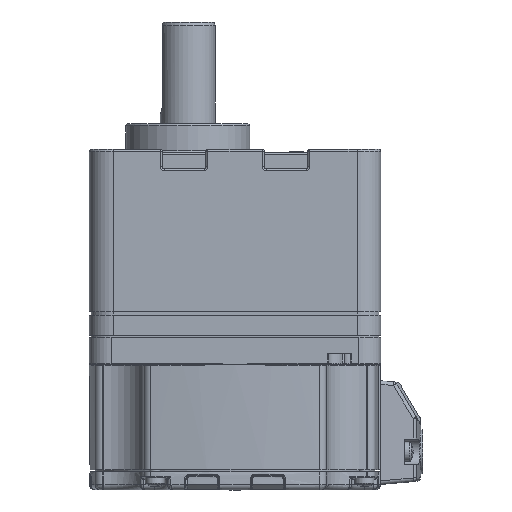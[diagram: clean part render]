
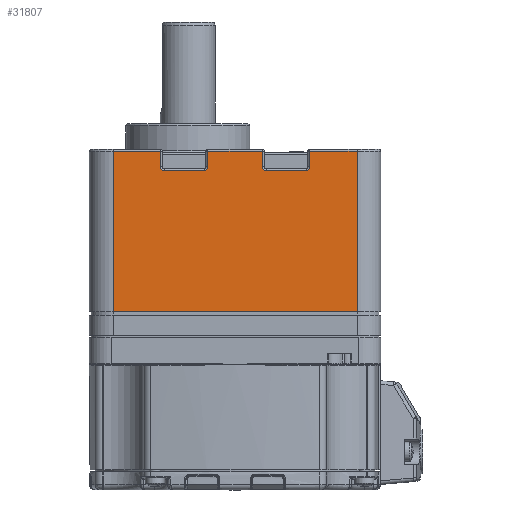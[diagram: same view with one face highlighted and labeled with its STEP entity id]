
A CAD part, left-side view. The second image highlights one B-rep face of the part: STEP entity #31807.
In plain terms, the highlighted planar face has unit normal (-1, 0, 0).
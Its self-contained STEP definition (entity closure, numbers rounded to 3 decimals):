
#28001=CARTESIAN_POINT('',(-80.,6.5,111.732));
#28002=VERTEX_POINT('',#28001);
#28012=CARTESIAN_POINT('',(-80.,6.5,67.732));
#28013=VERTEX_POINT('',#28012);
#28014=CARTESIAN_POINT('',(-80.,6.5,111.732));
#28015=DIRECTION('',(0.0,0.0,-1.0));
#28016=VECTOR('',#28015,44.);
#28017=LINE('',#28014,#28016);
#28018=EDGE_CURVE('',#28002,#28013,#28017,.T.);
#28045=CARTESIAN_POINT('',(-80.,73.5,67.732));
#28046=VERTEX_POINT('',#28045);
#28085=CARTESIAN_POINT('',(-80.0,73.5,67.732));
#28086=DIRECTION('',(0.0,-1.0,0.0));
#28087=VECTOR('',#28086,67.);
#28088=LINE('',#28085,#28087);
#28089=EDGE_CURVE('',#28046,#28013,#28088,.T.);
#28111=CARTESIAN_POINT('',(-80.,73.5,111.732));
#28112=VERTEX_POINT('',#28111);
#28127=CARTESIAN_POINT('',(-80.0,73.5,67.732));
#28128=DIRECTION('',(0.0,0.0,1.0));
#28129=VECTOR('',#28128,44.);
#28130=LINE('',#28127,#28129);
#28131=EDGE_CURVE('',#28046,#28112,#28130,.T.);
#29475=CARTESIAN_POINT('',(-80.,60.5,111.732));
#29476=VERTEX_POINT('',#29475);
#29486=CARTESIAN_POINT('',(-80.,60.5,107.432));
#29487=VERTEX_POINT('',#29486);
#29488=CARTESIAN_POINT('',(-80.,60.5,111.732));
#29489=DIRECTION('',(0.0,0.0,-1.0));
#29490=VECTOR('',#29489,4.3);
#29491=LINE('',#29488,#29490);
#29492=EDGE_CURVE('',#29476,#29487,#29491,.T.);
#29516=CARTESIAN_POINT('',(-80.,59.5,106.432));
#29517=VERTEX_POINT('',#29516);
#29518=CARTESIAN_POINT('',(-80.,59.5,107.432));
#29519=DIRECTION('',(-1.0,0.,0.));
#29520=DIRECTION('',(0.,0.707,-0.707));
#29521=AXIS2_PLACEMENT_3D('',#29518,#29519,#29520);
#29522=CIRCLE('',#29521,1.0);
#29523=EDGE_CURVE('',#29487,#29517,#29522,.T.);
#29542=CARTESIAN_POINT('',(-80.,48.5,106.432));
#29543=VERTEX_POINT('',#29542);
#29544=CARTESIAN_POINT('',(-80.,59.5,106.432));
#29545=DIRECTION('',(0.0,-1.0,0.0));
#29546=VECTOR('',#29545,11.);
#29547=LINE('',#29544,#29546);
#29548=EDGE_CURVE('',#29517,#29543,#29547,.T.);
#29567=CARTESIAN_POINT('',(-80.,47.5,107.432));
#29568=VERTEX_POINT('',#29567);
#29569=CARTESIAN_POINT('',(-80.,48.5,107.432));
#29570=DIRECTION('',(-1.,0.,0.));
#29571=DIRECTION('',(0.,-0.707,-0.707));
#29572=AXIS2_PLACEMENT_3D('',#29569,#29570,#29571);
#29573=CIRCLE('',#29572,1.);
#29574=EDGE_CURVE('',#29543,#29568,#29573,.T.);
#29592=CARTESIAN_POINT('',(-80.,47.5,111.732));
#29593=VERTEX_POINT('',#29592);
#29603=CARTESIAN_POINT('',(-80.,47.5,107.432));
#29604=DIRECTION('',(0.0,0.0,1.0));
#29605=VECTOR('',#29604,4.3);
#29606=LINE('',#29603,#29605);
#29607=EDGE_CURVE('',#29568,#29593,#29606,.T.);
#30846=CARTESIAN_POINT('',(-80.,32.5,111.732));
#30847=VERTEX_POINT('',#30846);
#30857=CARTESIAN_POINT('',(-80.,32.5,107.432));
#30858=VERTEX_POINT('',#30857);
#30859=CARTESIAN_POINT('',(-80.,32.5,111.732));
#30860=DIRECTION('',(0.0,0.0,-1.0));
#30861=VECTOR('',#30860,4.3);
#30862=LINE('',#30859,#30861);
#30863=EDGE_CURVE('',#30847,#30858,#30862,.T.);
#30887=CARTESIAN_POINT('',(-80.,31.5,106.432));
#30888=VERTEX_POINT('',#30887);
#30889=CARTESIAN_POINT('',(-80.,31.5,107.432));
#30890=DIRECTION('',(-1.0,0.,0.));
#30891=DIRECTION('',(0.,0.707,-0.707));
#30892=AXIS2_PLACEMENT_3D('',#30889,#30890,#30891);
#30893=CIRCLE('',#30892,1.);
#30894=EDGE_CURVE('',#30858,#30888,#30893,.T.);
#30913=CARTESIAN_POINT('',(-80.,20.5,106.432));
#30914=VERTEX_POINT('',#30913);
#30915=CARTESIAN_POINT('',(-80.,31.5,106.432));
#30916=DIRECTION('',(0.0,-1.0,0.0));
#30917=VECTOR('',#30916,11.);
#30918=LINE('',#30915,#30917);
#30919=EDGE_CURVE('',#30888,#30914,#30918,.T.);
#30938=CARTESIAN_POINT('',(-80.,19.5,107.432));
#30939=VERTEX_POINT('',#30938);
#30940=CARTESIAN_POINT('',(-80.,20.5,107.432));
#30941=DIRECTION('',(-1.0,0.,0.));
#30942=DIRECTION('',(0.,-0.707,-0.707));
#30943=AXIS2_PLACEMENT_3D('',#30940,#30941,#30942);
#30944=CIRCLE('',#30943,1.0);
#30945=EDGE_CURVE('',#30914,#30939,#30944,.T.);
#31337=CARTESIAN_POINT('',(-80.,73.5,111.732));
#31338=DIRECTION('',(0.0,-1.0,0.0));
#31339=VECTOR('',#31338,13.);
#31340=LINE('',#31337,#31339);
#31341=EDGE_CURVE('',#28112,#29476,#31340,.T.);
#31647=CARTESIAN_POINT('',(-80.,47.5,111.732));
#31648=DIRECTION('',(0.0,-1.0,0.0));
#31649=VECTOR('',#31648,15.);
#31650=LINE('',#31647,#31649);
#31651=EDGE_CURVE('',#29593,#30847,#31650,.T.);
#31759=CARTESIAN_POINT('',(-80.,19.5,111.732));
#31760=VERTEX_POINT('',#31759);
#31770=CARTESIAN_POINT('',(-80.,19.5,107.432));
#31771=DIRECTION('',(0.0,0.0,1.0));
#31772=VECTOR('',#31771,4.3);
#31773=LINE('',#31770,#31772);
#31774=EDGE_CURVE('',#30939,#31760,#31773,.T.);
#31779=CARTESIAN_POINT('',(-80.,80.,112.232));
#31780=DIRECTION('',(-1.0,0.0,0.0));
#31781=DIRECTION('',(0.0,0.0,-1.0));
#31782=AXIS2_PLACEMENT_3D('',#31779,#31780,#31781);
#31783=PLANE('',#31782);
#31784=CARTESIAN_POINT('',(-80.,19.5,111.732));
#31785=DIRECTION('',(0.0,-1.0,0.0));
#31786=VECTOR('',#31785,13.);
#31787=LINE('',#31784,#31786);
#31788=EDGE_CURVE('',#31760,#28002,#31787,.T.);
#31789=ORIENTED_EDGE('',*,*,#31788,.F.);
#31790=ORIENTED_EDGE('',*,*,#31774,.F.);
#31791=ORIENTED_EDGE('',*,*,#30945,.F.);
#31792=ORIENTED_EDGE('',*,*,#30919,.F.);
#31793=ORIENTED_EDGE('',*,*,#30894,.F.);
#31794=ORIENTED_EDGE('',*,*,#30863,.F.);
#31795=ORIENTED_EDGE('',*,*,#31651,.F.);
#31796=ORIENTED_EDGE('',*,*,#29607,.F.);
#31797=ORIENTED_EDGE('',*,*,#29574,.F.);
#31798=ORIENTED_EDGE('',*,*,#29548,.F.);
#31799=ORIENTED_EDGE('',*,*,#29523,.F.);
#31800=ORIENTED_EDGE('',*,*,#29492,.F.);
#31801=ORIENTED_EDGE('',*,*,#31341,.F.);
#31802=ORIENTED_EDGE('',*,*,#28131,.F.);
#31803=ORIENTED_EDGE('',*,*,#28089,.T.);
#31804=ORIENTED_EDGE('',*,*,#28018,.F.);
#31805=EDGE_LOOP('',(#31789,#31790,#31791,#31792,#31793,#31794,#31795,#31796,#31797,#31798,#31799,#31800,#31801,#31802,#31803,#31804));
#31806=FACE_OUTER_BOUND('',#31805,.T.);
#31807=ADVANCED_FACE('',(#31806),#31783,.T.);
